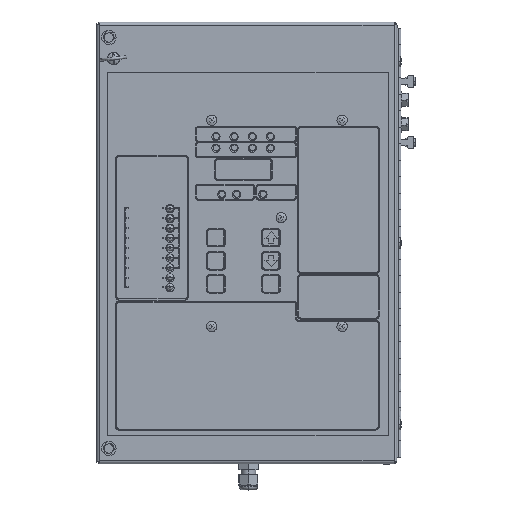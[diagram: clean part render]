
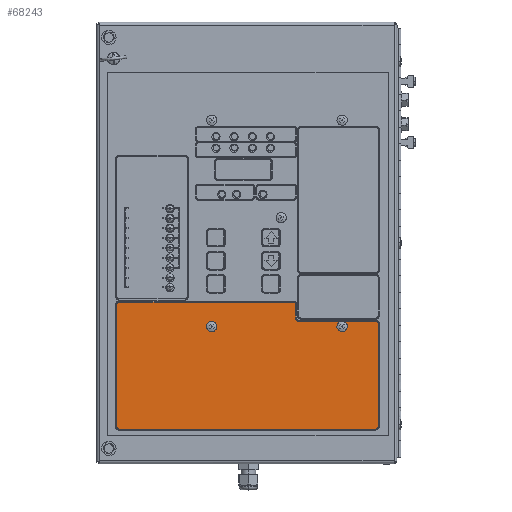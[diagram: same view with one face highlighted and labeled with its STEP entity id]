
A CAD part, top view. The second image highlights one B-rep face of the part: STEP entity #68243.
In plain terms, the highlighted planar face has unit normal (0, 0, 1).
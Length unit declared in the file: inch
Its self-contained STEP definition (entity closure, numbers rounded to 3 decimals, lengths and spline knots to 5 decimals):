
#68 = CARTESIAN_POINT ( 'NONE',  ( 3.55487, 4.15625, 0.01 ) ) ;
#179 = VECTOR ( 'NONE', #44980, 39.37008 ) ;
#1031 = DIRECTION ( 'NONE',  ( 1., 0., 0. ) ) ;
#1526 = DIRECTION ( 'NONE',  ( -1., 0., 0. ) ) ;
#1534 = CARTESIAN_POINT ( 'NONE',  ( 8.51206, 1.10092, 0.01 ) ) ;
#1666 = DIRECTION ( 'NONE',  ( 1., 0., 0. ) ) ;
#1683 = DIRECTION ( 'NONE',  ( -1., 0., 0. ) ) ;
#2508 = VERTEX_POINT ( 'NONE', #1534 ) ;
#2666 = FACE_BOUND ( 'NONE', #63818, .T. ) ;
#3354 = CARTESIAN_POINT ( 'NONE',  ( 0.65784, 4.8846, 0.01 ) ) ;
#4425 = EDGE_CURVE ( 'NONE', #27480, #48573, #64453, .T. ) ;
#4640 = ORIENTED_EDGE ( 'NONE', *, *, #4675, .F. ) ;
#4675 = EDGE_CURVE ( 'NONE', #49976, #58275, #42711, .T. ) ;
#4903 = CIRCLE ( 'NONE', #27464, 0.07 ) ;
#5092 = VERTEX_POINT ( 'NONE', #63919 ) ;
#5676 = CARTESIAN_POINT ( 'NONE',  ( 6.01623, 4.39919, 0.01 ) ) ;
#5859 = EDGE_CURVE ( 'NONE', #65351, #27480, #69576, .T. ) ;
#6916 = ORIENTED_EDGE ( 'NONE', *, *, #32832, .F. ) ;
#7044 = ORIENTED_EDGE ( 'NONE', *, *, #65054, .T. ) ;
#8247 = CARTESIAN_POINT ( 'NONE',  ( 5.95373, 4.8846, 0.01 ) ) ;
#9343 = ORIENTED_EDGE ( 'NONE', *, *, #56615, .T. ) ;
#12127 = VECTOR ( 'NONE', #1526, 39.37008 ) ;
#12860 = DIRECTION ( 'NONE',  ( 0., 0., 1. ) ) ;
#12966 = VECTOR ( 'NONE', #79933, 39.37008 ) ;
#14352 = CARTESIAN_POINT ( 'NONE',  ( 8.81763, 0.83488, 0.01 ) ) ;
#15093 = CARTESIAN_POINT ( 'NONE',  ( 8.44956, 1.03842, 0.01 ) ) ;
#15591 = CARTESIAN_POINT ( 'NONE',  ( 0.65784, 4.8221, 0.01 ) ) ;
#15986 = CARTESIAN_POINT ( 'NONE',  ( 8.51206, 1.10092, 0.01 ) ) ;
#16368 = CIRCLE ( 'NONE', #68326, 0.09375 ) ;
#16725 = LINE ( 'NONE', #15986, #86178 ) ;
#16923 = EDGE_LOOP ( 'NONE', ( #4640, #44866 ) ) ;
#17200 = DIRECTION ( 'NONE',  ( 0., 0., 1. ) ) ;
#17254 = CARTESIAN_POINT ( 'NONE',  ( 8.44956, 4.24294, 0.01 ) ) ;
#17606 = CARTESIAN_POINT ( 'NONE',  ( 3.48487, 4.15625, 0.01 ) ) ;
#17791 = VERTEX_POINT ( 'NONE', #66823 ) ;
#18492 = LINE ( 'NONE', #49500, #55305 ) ;
#18991 = CARTESIAN_POINT ( 'NONE',  ( 5.95373, 4.8221, 0.01 ) ) ;
#21090 = FACE_OUTER_BOUND ( 'NONE', #78843, .T. ) ;
#21265 = PLANE ( 'NONE',  #77524 ) ;
#21407 = ORIENTED_EDGE ( 'NONE', *, *, #5859, .T. ) ;
#22522 = DIRECTION ( 'NONE',  ( -1., 0., 0. ) ) ;
#22658 = EDGE_CURVE ( 'NONE', #58535, #5092, #40732, .T. ) ;
#22936 = DIRECTION ( 'NONE',  ( 0., 1., 0. ) ) ;
#23257 = FACE_BOUND ( 'NONE', #16923, .T. ) ;
#23430 = CIRCLE ( 'NONE', #33085, 0.07 ) ;
#24166 = DIRECTION ( 'NONE',  ( 1., 0., 0. ) ) ;
#24353 = CARTESIAN_POINT ( 'NONE',  ( 6.01623, 4.8221, 0.01 ) ) ;
#24536 = DIRECTION ( 'NONE',  ( 1., 0., 0. ) ) ;
#25959 = DIRECTION ( 'NONE',  ( -1., 0., 0. ) ) ;
#26808 = CARTESIAN_POINT ( 'NONE',  ( 0.59534, 4.8221, 0.01 ) ) ;
#26894 = CIRCLE ( 'NONE', #42946, 0.07 ) ;
#27464 = AXIS2_PLACEMENT_3D ( 'NONE', #35375, #83933, #42304 ) ;
#27480 = VERTEX_POINT ( 'NONE', #62011 ) ;
#28577 = CARTESIAN_POINT ( 'NONE',  ( 6.10998, 4.39919, 0.01 ) ) ;
#29526 = EDGE_CURVE ( 'NONE', #2508, #67281, #16725, .T. ) ;
#32079 = AXIS2_PLACEMENT_3D ( 'NONE', #84806, #43182, #1683 ) ;
#32832 = EDGE_CURVE ( 'NONE', #57092, #77232, #23430, .T. ) ;
#33085 = AXIS2_PLACEMENT_3D ( 'NONE', #58613, #17200, #65648 ) ;
#33842 = CARTESIAN_POINT ( 'NONE',  ( 3.41487, 4.15625, 0.01 ) ) ;
#34066 = VERTEX_POINT ( 'NONE', #81584 ) ;
#35375 = CARTESIAN_POINT ( 'NONE',  ( 7.43487, 4.15625, 0.01 ) ) ;
#35578 = DIRECTION ( 'NONE',  ( -1., 0., 0. ) ) ;
#37117 = EDGE_CURVE ( 'NONE', #48573, #73173, #86718, .T. ) ;
#38283 = ORIENTED_EDGE ( 'NONE', *, *, #86908, .T. ) ;
#40400 = CARTESIAN_POINT ( 'NONE',  ( 7.50487, 4.15625, 0.01 ) ) ;
#40732 = LINE ( 'NONE', #88860, #77592 ) ;
#41617 = AXIS2_PLACEMENT_3D ( 'NONE', #18991, #67490, #25959 ) ;
#42177 = DIRECTION ( 'NONE',  ( 1., 0., 0. ) ) ;
#42304 = DIRECTION ( 'NONE',  ( 1., 0., 0. ) ) ;
#42711 = CIRCLE ( 'NONE', #72441, 0.07 ) ;
#42946 = AXIS2_PLACEMENT_3D ( 'NONE', #17606, #66090, #24536 ) ;
#43020 = ORIENTED_EDGE ( 'NONE', *, *, #4425, .T. ) ;
#43161 = DIRECTION ( 'NONE',  ( 0., 0., 1. ) ) ;
#43182 = DIRECTION ( 'NONE',  ( 0., 0., 1. ) ) ;
#43772 = EDGE_CURVE ( 'NONE', #77092, #65597, #18492, .T. ) ;
#44866 = ORIENTED_EDGE ( 'NONE', *, *, #47129, .F. ) ;
#44980 = DIRECTION ( 'NONE',  ( 0., 1., 0. ) ) ;
#45947 = ORIENTED_EDGE ( 'NONE', *, *, #43772, .T. ) ;
#47129 = EDGE_CURVE ( 'NONE', #58275, #49976, #4903, .T. ) ;
#48573 = VERTEX_POINT ( 'NONE', #8247 ) ;
#49500 = CARTESIAN_POINT ( 'NONE',  ( 0.65784, 1.03842, 0.01 ) ) ;
#49761 = CIRCLE ( 'NONE', #63675, 0.0625 ) ;
#49976 = VERTEX_POINT ( 'NONE', #40400 ) ;
#51160 = ORIENTED_EDGE ( 'NONE', *, *, #37117, .T. ) ;
#51420 = CARTESIAN_POINT ( 'NONE',  ( 7.36487, 4.15625, 0.01 ) ) ;
#52319 = CARTESIAN_POINT ( 'NONE',  ( 0.65784, 4.8846, 0.01 ) ) ;
#52927 = CARTESIAN_POINT ( 'NONE',  ( 0.65784, 1.03842, 0.01 ) ) ;
#54194 = EDGE_CURVE ( 'NONE', #65597, #2508, #59139, .T. ) ;
#54211 = DIRECTION ( 'NONE',  ( 0., -1., 0. ) ) ;
#54270 = CARTESIAN_POINT ( 'NONE',  ( 0.65784, 1.10092, 0.01 ) ) ;
#55305 = VECTOR ( 'NONE', #1031, 39.37008 ) ;
#56615 = EDGE_CURVE ( 'NONE', #73173, #58535, #49761, .T. ) ;
#57092 = VERTEX_POINT ( 'NONE', #68 ) ;
#58275 = VERTEX_POINT ( 'NONE', #51420 ) ;
#58535 = VERTEX_POINT ( 'NONE', #26808 ) ;
#58613 = CARTESIAN_POINT ( 'NONE',  ( 3.48487, 4.15625, 0.01 ) ) ;
#59139 = CIRCLE ( 'NONE', #32079, 0.0625 ) ;
#61219 = DIRECTION ( 'NONE',  ( -1., 0., 0. ) ) ;
#62011 = CARTESIAN_POINT ( 'NONE',  ( 6.01623, 4.8221, 0.01 ) ) ;
#63609 = ORIENTED_EDGE ( 'NONE', *, *, #29526, .T. ) ;
#63675 = AXIS2_PLACEMENT_3D ( 'NONE', #15591, #64059, #22522 ) ;
#63717 = ORIENTED_EDGE ( 'NONE', *, *, #22658, .T. ) ;
#63818 = EDGE_LOOP ( 'NONE', ( #6916, #88757 ) ) ;
#63919 = CARTESIAN_POINT ( 'NONE',  ( 0.59534, 1.10092, 0.01 ) ) ;
#64059 = DIRECTION ( 'NONE',  ( 0., 0., 1. ) ) ;
#64453 = CIRCLE ( 'NONE', #41617, 0.0625 ) ;
#65054 = EDGE_CURVE ( 'NONE', #17791, #34066, #85878, .T. ) ;
#65351 = VERTEX_POINT ( 'NONE', #5676 ) ;
#65597 = VERTEX_POINT ( 'NONE', #15093 ) ;
#65648 = DIRECTION ( 'NONE',  ( 1., 0., 0. ) ) ;
#65711 = DIRECTION ( 'NONE',  ( 0., 0., 1. ) ) ;
#66090 = DIRECTION ( 'NONE',  ( 0., 0., 1. ) ) ;
#66643 = AXIS2_PLACEMENT_3D ( 'NONE', #54270, #12860, #61219 ) ;
#66823 = CARTESIAN_POINT ( 'NONE',  ( 8.44956, 4.30544, 0.01 ) ) ;
#67281 = VERTEX_POINT ( 'NONE', #72053 ) ;
#67490 = DIRECTION ( 'NONE',  ( 0., 0., 1. ) ) ;
#67756 = ORIENTED_EDGE ( 'NONE', *, *, #54194, .T. ) ;
#68243 = ADVANCED_FACE ( 'NONE', ( #21090, #2666, #23257 ), #21265, .T. ) ;
#68326 = AXIS2_PLACEMENT_3D ( 'NONE', #28577, #77039, #35578 ) ;
#69576 = LINE ( 'NONE', #24353, #179 ) ;
#71186 = EDGE_CURVE ( 'NONE', #67281, #17791, #72709, .T. ) ;
#72053 = CARTESIAN_POINT ( 'NONE',  ( 8.51206, 4.24294, 0.01 ) ) ;
#72441 = AXIS2_PLACEMENT_3D ( 'NONE', #84786, #43161, #1666 ) ;
#72709 = CIRCLE ( 'NONE', #83057, 0.0625 ) ;
#73173 = VERTEX_POINT ( 'NONE', #3354 ) ;
#76826 = ORIENTED_EDGE ( 'NONE', *, *, #77766, .T. ) ;
#77039 = DIRECTION ( 'NONE',  ( 0., 0., -1. ) ) ;
#77092 = VERTEX_POINT ( 'NONE', #52927 ) ;
#77232 = VERTEX_POINT ( 'NONE', #33842 ) ;
#77524 = AXIS2_PLACEMENT_3D ( 'NONE', #14352, #83796, #42177 ) ;
#77592 = VECTOR ( 'NONE', #54211, 39.37008 ) ;
#77766 = EDGE_CURVE ( 'NONE', #5092, #77092, #80366, .T. ) ;
#78843 = EDGE_LOOP ( 'NONE', ( #76826, #45947, #67756, #63609, #84530, #7044, #38283, #21407, #43020, #51160, #9343, #63717 ) ) ;
#79933 = DIRECTION ( 'NONE',  ( -1., 0., 0. ) ) ;
#80366 = CIRCLE ( 'NONE', #66643, 0.0625 ) ;
#81584 = CARTESIAN_POINT ( 'NONE',  ( 6.10998, 4.30544, 0.01 ) ) ;
#83057 = AXIS2_PLACEMENT_3D ( 'NONE', #17254, #65711, #24166 ) ;
#83796 = DIRECTION ( 'NONE',  ( 0., 0., 1. ) ) ;
#83933 = DIRECTION ( 'NONE',  ( 0., 0., 1. ) ) ;
#84530 = ORIENTED_EDGE ( 'NONE', *, *, #71186, .T. ) ;
#84638 = CARTESIAN_POINT ( 'NONE',  ( 6.10998, 4.30544, 0.01 ) ) ;
#84786 = CARTESIAN_POINT ( 'NONE',  ( 7.43487, 4.15625, 0.01 ) ) ;
#84806 = CARTESIAN_POINT ( 'NONE',  ( 8.44956, 1.10092, 0.01 ) ) ;
#85878 = LINE ( 'NONE', #84638, #12127 ) ;
#86178 = VECTOR ( 'NONE', #22936, 39.37008 ) ;
#86718 = LINE ( 'NONE', #52319, #12966 ) ;
#86908 = EDGE_CURVE ( 'NONE', #34066, #65351, #16368, .T. ) ;
#88757 = ORIENTED_EDGE ( 'NONE', *, *, #89031, .F. ) ;
#88860 = CARTESIAN_POINT ( 'NONE',  ( 0.59534, 1.10092, 0.01 ) ) ;
#89031 = EDGE_CURVE ( 'NONE', #77232, #57092, #26894, .T. ) ;
